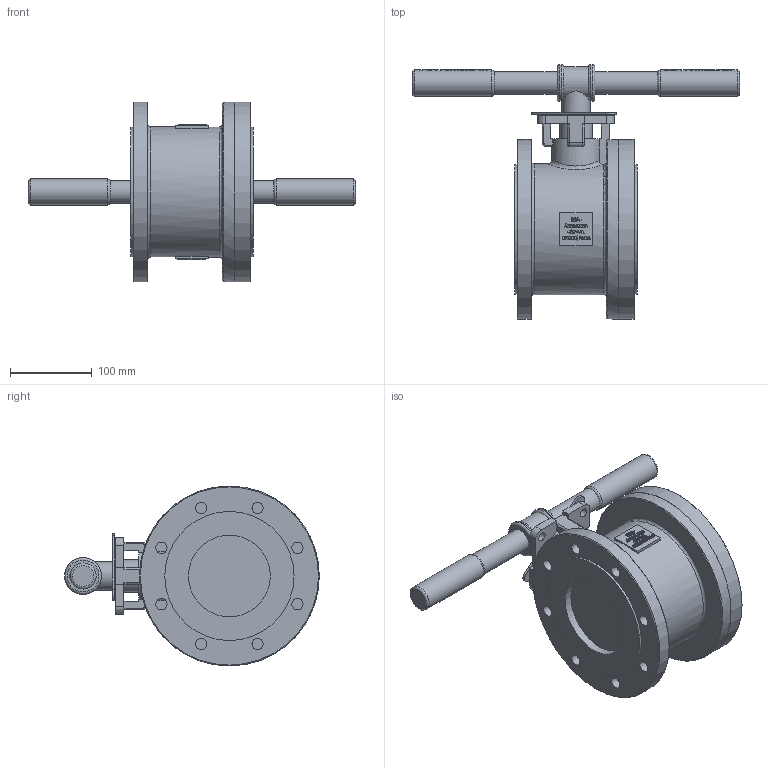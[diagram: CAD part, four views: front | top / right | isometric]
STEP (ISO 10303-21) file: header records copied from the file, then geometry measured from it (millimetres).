
FILE_DESCRIPTION((''),'2;1');
FILE_NAME('K:\Inventor\1 Artikel\12) Flanschen-Kugelhähne\12a) manuell\Econosto\437-VA, 7383\437-VA, DN100\437-VA, DN100, 3D\437-VA, DN100, PN16, HH, 3D.stp','2019-11-07T15:55:05',('claudia'),(''),'Autodesk Inventor 2013','Autodesk Inventor 2013','');
FILE_SCHEMA(('AUTOMOTIVE_DESIGN { 1 0 10303 214 1 1 1 1 }'));
Length unit declared in the file: millimetre
Products named in the file (1): Bauteil11
Bounding box: 400 x 311.5 x 220 mm (x, y, z)
Volume: 4312985.4 mm3; surface area: 297419.9 mm2
Topology: 1 solids, 1 shells, 1475 faces, 4090 edges, 2718 vertices
Faces by surface type: plane 774, bspline 565, cylinder 108, torus 16, cone 12
Full cylindrical faces by diameter (mm): 10.998 x1, 11 x4, 13.835 x16, 28 x2, 32 x2, 35 x1, 40 x1, 45 x2, 65 x1, 100 x2, 158 x2, 160 x1, 219.6 x1, 220 x2
Entity records: 107311 total; most frequent: CARTESIAN_POINT 73521, ORIENTED_EDGE 7810, DIRECTION 4646, EDGE_CURVE 3905, VERTEX_POINT 2625, VECTOR 2338, LINE 2338, EDGE_LOOP 1686
